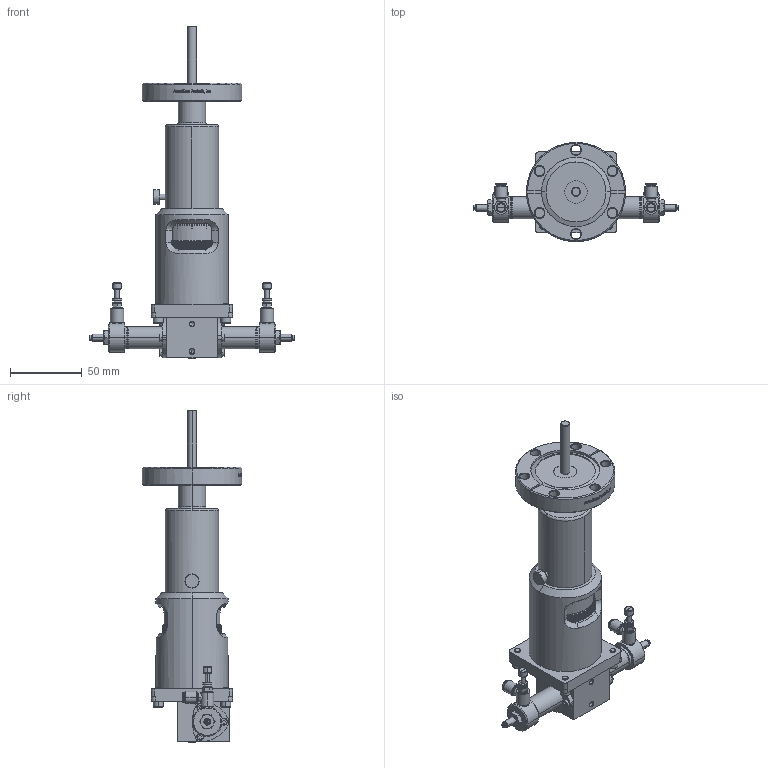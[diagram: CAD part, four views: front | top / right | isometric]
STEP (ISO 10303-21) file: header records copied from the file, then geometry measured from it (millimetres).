
FILE_DESCRIPTION (( 'STEP AP203' ), '1' );
FILE_NAME ('102110.31+112687.stp', '2019-04-17T20:12:10', ( '' ), ( '' ), 'SwSTEP 2.0', 'SolidWorks 2012', '' );
FILE_SCHEMA (( 'CONFIG_CONTROL_DESIGN' ));
Length unit declared in the file: centimetre
Products named in the file (1): 102110.31+112687
Bounding box: 143.87 x 69.34 x 232 mm (x, y, z)
Volume: 328041.5 mm3; surface area: 59819.1 mm2
Topology: 1 solids, 15 shells, 1833 faces, 4923 edges, 3217 vertices
Faces by surface type: plane 804, cylinder 618, cone 244, bspline 167
Entity records: 90574 total; most frequent: CARTESIAN_POINT 45796, ORIENTED_EDGE 9814, DIRECTION 8776, EDGE_CURVE 4907, AXIS2_PLACEMENT_3D 3262, VERTEX_POINT 3217, VECTOR 2252, LINE 2252
